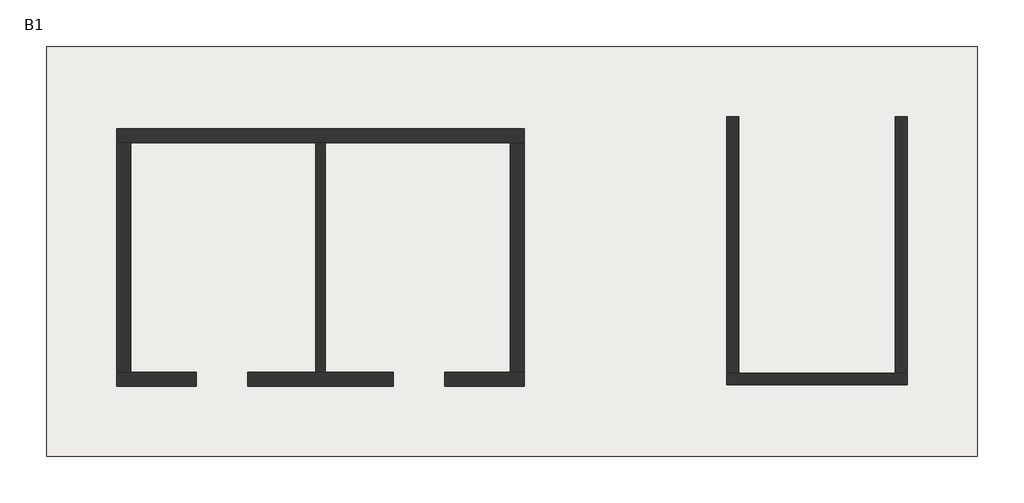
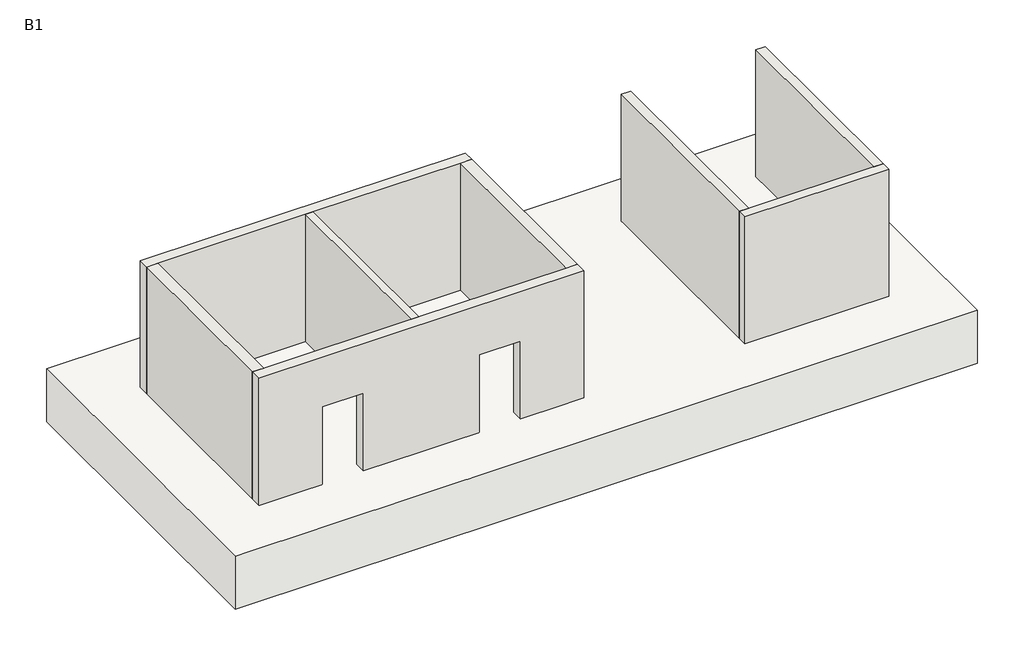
# One storey: 8 walls, 1 slab.
"""IFC4 building model written with IfcOpenShell, lengths in millimetres."""

from ifc_helpers import new_model, si_unit, frame, origin, place, context, project, spatial, polyline, outline, extrude, faceted_brep, element, save

model = new_model("IFC4")

# Units and contexts
model_context = context("Model", 3, world=origin())
ifc_project = project(units=[si_unit("LENGTHUNIT", "METRE", prefix="MILLI")], contexts=[model_context])

# Site, building, storey
site = spatial("IfcSite", under=ifc_project)
building = spatial("IfcBuilding", under=site)
storey = spatial("IfcBuildingStorey", under=building, Name="B1", Elevation=-3600.0)

# Slab
placement = place(None, origin())
element("IfcSlab", 1, ObjectType="BS-Móng bè 1500", at=placement, inside=storey, context=model_context, shape_type="SweptSolid", body=[
    extrude(outline(polyline([(18225.0, -1650.0), (-1650.0, -1650.0), (-1650.0, 7100.0), (18225.0, 7100.0), (18225.0, -1650.0)])), frame((0.0, 0.0, -5100.0), z_axis=(0.0, 0.0, 1.0), x_axis=(1.0, 0.0, 0.0)), (0.0, 0.0, 1.0), 1500.0),
])

# Walls
element("IfcWall", 2, ObjectType="BS-Vách 300", at=placement, inside=storey, context=model_context, shape_type="Brep", body=[
    faceted_brep([(-150.0, 5050.0, -3600.0), (150.0, 5050.0, -3600.0), (4100.0, 5050.0, -3600.0), (4300.0, 5050.0, -3600.0), (8250.0, 5050.0, -3600.0), (8550.0, 5050.0, -3600.0), (8550.0, 5050.0, 0.0), (8250.0, 5050.0, 0.0), (4300.0, 5050.0, 0.0), (4100.0, 5050.0, 0.0), (150.0, 5050.0, 0.0), (-150.0, 5050.0, 0.0), (-150.0, 5350.0, -3600.0), (-150.0, 5350.0, 0.0), (8550.0, 5350.0, 0.0), (8550.0, 5350.0, -3600.0)], [[[0, 1, 2, 3, 4, 5, 6, 7, 8, 9, 10, 11]], [[12, 13, 14, 15]], [[5, 4, 3, 2, 1, 0, 12, 15]], [[11, 10, 9, 8, 7, 6, 14, 13]], [[6, 5, 15, 14]], [[0, 11, 13, 12]]]),
])
element("IfcWall", 3, ObjectType="BS-Vách 300", at=placement, inside=storey, context=model_context, shape_type="Brep", body=[
    faceted_brep([(8550.0, -150.0, -3600.0), (8550.0, -150.0, 0.0), (-150.0, -150.0, 0.0), (-150.0, -150.0, -3600.0), (1550.0, -150.0, -3600.0), (1550.0, -150.0, -1400.0), (2650.0, -150.0, -1400.0), (2650.0, -150.0, -3600.0), (5750.0, -150.0, -3600.0), (5750.0, -150.0, -1400.0), (6850.0, -150.0, -1400.0), (6850.0, -150.0, -3600.0), (8550.0, 150.0, 0.0), (8550.0, 150.0, -3600.0), (8250.0, 150.0, -3600.0), (6850.0, 150.0, -3600.0), (6850.0, 150.0, -1400.0), (5750.0, 150.0, -1400.0), (5750.0, 150.0, -3600.0), (4300.0, 150.0, -3600.0), (4100.0, 150.0, -3600.0), (2650.0, 150.0, -3600.0), (2650.0, 150.0, -1400.0), (1550.0, 150.0, -1400.0), (1550.0, 150.0, -3600.0), (150.0, 150.0, -3600.0), (-150.0, 150.0, -3600.0), (-150.0, 150.0, 0.0), (150.0, 150.0, 0.0), (4100.0, 150.0, 0.0), (4300.0, 150.0, 0.0), (8250.0, 150.0, 0.0)], [[[0, 1, 2, 3, 4, 5, 6, 7, 8, 9, 10, 11]], [[12, 13, 14, 15, 16, 17, 18, 19, 20, 21, 22, 23, 24, 25, 26, 27, 28, 29, 30, 31]], [[7, 21, 20, 19, 18, 8]], [[13, 0, 11, 15, 14]], [[3, 26, 25, 24, 4]], [[2, 1, 12, 31, 30, 29, 28, 27]], [[5, 23, 22, 6]], [[23, 5, 4, 24]], [[6, 22, 21, 7]], [[9, 17, 16, 10]], [[17, 9, 8, 18]], [[10, 16, 15, 11]], [[1, 0, 13, 12]], [[3, 2, 27, 26]]]),
])
element("IfcWall", 4, ObjectType="BS-Vách 300", at=placement, inside=storey, context=model_context, shape_type="SweptSolid", body=[
    extrude(outline(polyline([(150.0, 5050.0), (150.0, 150.0), (-150.0, 150.0), (-150.0, 5050.0), (150.0, 5050.0)])), frame((0.0, 0.0, -3600.0), z_axis=(0.0, 0.0, 1.0), x_axis=(1.0, 0.0, 0.0)), (0.0, 0.0, 1.0), 3600.0),
])
element("IfcWall", 5, ObjectType="BS-Vách 300", at=placement, inside=storey, context=model_context, shape_type="SweptSolid", body=[
    extrude(outline(polyline([(8550.0, 5050.0), (8550.0, 150.0), (8250.0, 150.0), (8250.0, 5050.0), (8550.0, 5050.0)])), frame((0.0, 0.0, -3600.0), z_axis=(0.0, 0.0, 1.0), x_axis=(1.0, 0.0, 0.0)), (0.0, 0.0, 1.0), 3600.0),
])
element("IfcWall", 6, ObjectType="BS-Vách 200", at=placement, inside=storey, context=model_context, shape_type="SweptSolid", body=[
    extrude(outline(polyline([(4300.0, 5050.0), (4300.0, 150.0), (4100.0, 150.0), (4100.0, 5050.0), (4300.0, 5050.0)])), frame((0.0, 0.0, -3600.0), z_axis=(0.0, 0.0, 1.0), x_axis=(1.0, 0.0, 0.0)), (0.0, 0.0, 1.0), 3600.0),
])
element("IfcWall", 7, ObjectType="BS-Vách 250", at=placement, inside=storey, context=model_context, shape_type="Brep", body=[
    faceted_brep([(12875.0, -125.0, -3600.0), (16725.0, -125.0, -3600.0), (16725.0, -125.0, 0.0), (12875.0, -125.0, 0.0), (12875.0, 125.0, -3600.0), (12875.0, 125.0, 0.0), (13125.0, 125.0, 0.0), (16475.0, 125.0, 0.0), (16725.0, 125.0, 0.0), (16725.0, 125.0, -3600.0), (16475.0, 125.0, -3600.0), (13125.0, 125.0, -3600.0)], [[[0, 1, 2, 3]], [[4, 5, 6, 7, 8, 9, 10, 11]], [[1, 0, 4, 11, 10, 9]], [[3, 2, 8, 7, 6, 5]], [[2, 1, 9, 8]], [[0, 3, 5, 4]]]),
])
element("IfcWall", 8, ObjectType="BS-Vách 250", at=placement, inside=storey, context=model_context, shape_type="SweptSolid", body=[
    extrude(outline(polyline([(13125.0, 5600.0), (13125.0, 125.0), (12875.0, 125.0), (12875.0, 5600.0), (13125.0, 5600.0)])), frame((0.0, 0.0, -3600.0), z_axis=(0.0, 0.0, 1.0), x_axis=(1.0, 0.0, 0.0)), (0.0, 0.0, 1.0), 3600.0),
])
element("IfcWall", 9, ObjectType="BS-Vách 250", at=placement, inside=storey, context=model_context, shape_type="SweptSolid", body=[
    extrude(outline(polyline([(16725.0, 5600.0), (16725.0, 125.0), (16475.0, 125.0), (16475.0, 5600.0), (16725.0, 5600.0)])), frame((0.0, 0.0, -3600.0), z_axis=(0.0, 0.0, 1.0), x_axis=(1.0, 0.0, 0.0)), (0.0, 0.0, 1.0), 3600.0),
])

save(model, "model.ifc")
